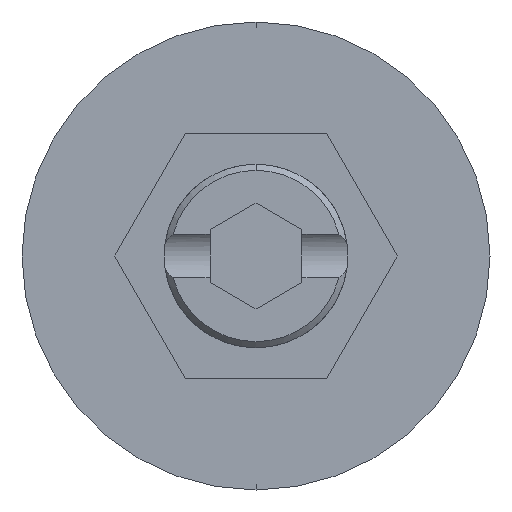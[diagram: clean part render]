
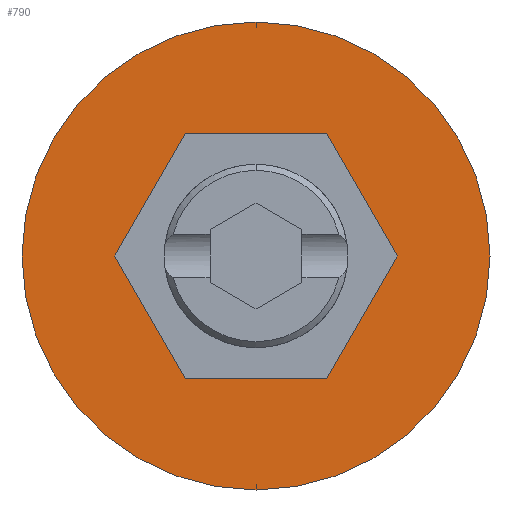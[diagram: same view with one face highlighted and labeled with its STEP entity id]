
A CAD part, front view. The second image highlights one B-rep face of the part: STEP entity #790.
In plain terms, the highlighted planar face has unit normal (0, -1, 0).
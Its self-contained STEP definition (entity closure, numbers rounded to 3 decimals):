
#190 = AXIS2_PLACEMENT_3D ( 'NONE', #2122, #1520, #706 ) ;
#217 = EDGE_CURVE ( 'NONE', #2879, #1449, #301, .T. ) ;
#231 = CARTESIAN_POINT ( 'NONE',  ( 0., 0., 0. ) ) ;
#301 = LINE ( 'NONE', #1294, #484 ) ;
#369 = DIRECTION ( 'NONE',  ( 0.5, 0., -0.866 ) ) ;
#382 = CARTESIAN_POINT ( 'NONE',  ( -4.619, 0., 0. ) ) ;
#385 = CARTESIAN_POINT ( 'NONE',  ( 4.619, 0., 0. ) ) ;
#426 = VECTOR ( 'NONE', #3018, 1000. ) ;
#484 = VECTOR ( 'NONE', #1492, 1000. ) ;
#535 = CIRCLE ( 'NONE', #1113, 7.65 ) ;
#662 = LINE ( 'NONE', #385, #426 ) ;
#706 = DIRECTION ( 'NONE',  ( 0., 0., -1. ) ) ;
#766 = VERTEX_POINT ( 'NONE', #2301 ) ;
#790 = ADVANCED_FACE ( 'NONE', ( #2579, #2846 ), #3036, .T. ) ;
#819 = CARTESIAN_POINT ( 'NONE',  ( 4.619, 0., 0. ) ) ;
#850 = VERTEX_POINT ( 'NONE', #819 ) ;
#857 = CARTESIAN_POINT ( 'NONE',  ( 2.309, 0., -4. ) ) ;
#892 = VERTEX_POINT ( 'NONE', #1727 ) ;
#942 = ORIENTED_EDGE ( 'NONE', *, *, #2152, .F. ) ;
#981 = VERTEX_POINT ( 'NONE', #2104 ) ;
#991 = ORIENTED_EDGE ( 'NONE', *, *, #1444, .F. ) ;
#1113 = AXIS2_PLACEMENT_3D ( 'NONE', #2251, #2734, #1227 ) ;
#1130 = DIRECTION ( 'NONE',  ( -1., 0., 0. ) ) ;
#1142 = EDGE_CURVE ( 'NONE', #981, #2751, #2766, .T. ) ;
#1221 = LINE ( 'NONE', #2355, #2576 ) ;
#1227 = DIRECTION ( 'NONE',  ( 0., 0., -1. ) ) ;
#1294 = CARTESIAN_POINT ( 'NONE',  ( -2.309, 0., 4. ) ) ;
#1313 = ORIENTED_EDGE ( 'NONE', *, *, #1142, .T. ) ;
#1324 = DIRECTION ( 'NONE',  ( 0.5, 0., 0.866 ) ) ;
#1374 = EDGE_LOOP ( 'NONE', ( #1848, #1313 ) ) ;
#1410 = LINE ( 'NONE', #382, #1771 ) ;
#1444 = EDGE_CURVE ( 'NONE', #766, #850, #1638, .T. ) ;
#1449 = VERTEX_POINT ( 'NONE', #2860 ) ;
#1485 = DIRECTION ( 'NONE',  ( 0., 0., -1. ) ) ;
#1492 = DIRECTION ( 'NONE',  ( -0.5, 0., -0.866 ) ) ;
#1513 = AXIS2_PLACEMENT_3D ( 'NONE', #231, #2421, #1485 ) ;
#1516 = EDGE_LOOP ( 'NONE', ( #2643, #2575, #2712, #942, #1562, #991 ) ) ;
#1520 = DIRECTION ( 'NONE',  ( 0., -1., 0. ) ) ;
#1562 = ORIENTED_EDGE ( 'NONE', *, *, #1933, .F. ) ;
#1596 = VERTEX_POINT ( 'NONE', #2036 ) ;
#1638 = LINE ( 'NONE', #857, #2939 ) ;
#1727 = CARTESIAN_POINT ( 'NONE',  ( -2.309, 0., -4. ) ) ;
#1771 = VECTOR ( 'NONE', #369, 1000. ) ;
#1848 = ORIENTED_EDGE ( 'NONE', *, *, #2435, .T. ) ;
#1933 = EDGE_CURVE ( 'NONE', #850, #1596, #662, .T. ) ;
#1949 = EDGE_CURVE ( 'NONE', #892, #766, #2948, .T. ) ;
#1955 = VECTOR ( 'NONE', #2544, 1000. ) ;
#1999 = EDGE_CURVE ( 'NONE', #1449, #892, #1410, .T. ) ;
#2036 = CARTESIAN_POINT ( 'NONE',  ( 2.309, 0., 4. ) ) ;
#2104 = CARTESIAN_POINT ( 'NONE',  ( 0., 0., 7.65 ) ) ;
#2122 = CARTESIAN_POINT ( 'NONE',  ( 0., 0., 0. ) ) ;
#2152 = EDGE_CURVE ( 'NONE', #1596, #2879, #1221, .T. ) ;
#2202 = CARTESIAN_POINT ( 'NONE',  ( 0., 0., -7.65 ) ) ;
#2251 = CARTESIAN_POINT ( 'NONE',  ( 0., 0., 0. ) ) ;
#2301 = CARTESIAN_POINT ( 'NONE',  ( 2.309, 0., -4. ) ) ;
#2355 = CARTESIAN_POINT ( 'NONE',  ( 2.309, 0., 4. ) ) ;
#2421 = DIRECTION ( 'NONE',  ( 0., -1., 0. ) ) ;
#2433 = CARTESIAN_POINT ( 'NONE',  ( -2.309, 0., -4. ) ) ;
#2435 = EDGE_CURVE ( 'NONE', #2751, #981, #535, .T. ) ;
#2544 = DIRECTION ( 'NONE',  ( 1., 0., 0. ) ) ;
#2575 = ORIENTED_EDGE ( 'NONE', *, *, #1999, .F. ) ;
#2576 = VECTOR ( 'NONE', #1130, 1000. ) ;
#2579 = FACE_BOUND ( 'NONE', #1516, .T. ) ;
#2643 = ORIENTED_EDGE ( 'NONE', *, *, #1949, .F. ) ;
#2712 = ORIENTED_EDGE ( 'NONE', *, *, #217, .F. ) ;
#2734 = DIRECTION ( 'NONE',  ( 0., -1., 0. ) ) ;
#2751 = VERTEX_POINT ( 'NONE', #2202 ) ;
#2766 = CIRCLE ( 'NONE', #1513, 7.65 ) ;
#2846 = FACE_OUTER_BOUND ( 'NONE', #1374, .T. ) ;
#2860 = CARTESIAN_POINT ( 'NONE',  ( -4.619, 0., 0. ) ) ;
#2879 = VERTEX_POINT ( 'NONE', #2953 ) ;
#2939 = VECTOR ( 'NONE', #1324, 1000. ) ;
#2948 = LINE ( 'NONE', #2433, #1955 ) ;
#2953 = CARTESIAN_POINT ( 'NONE',  ( -2.309, 0., 4. ) ) ;
#3018 = DIRECTION ( 'NONE',  ( -0.5, 0., 0.866 ) ) ;
#3036 = PLANE ( 'NONE',  #190 ) ;
